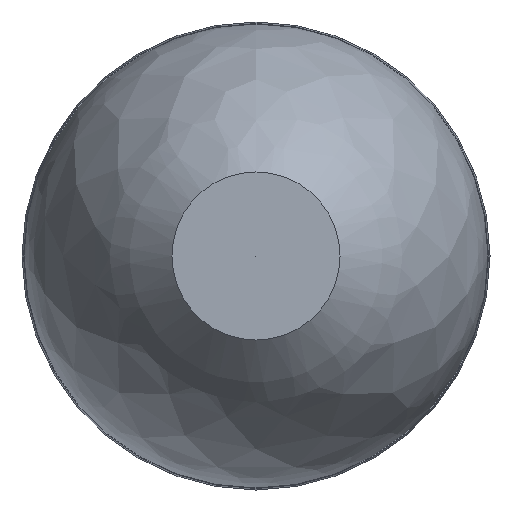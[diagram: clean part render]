
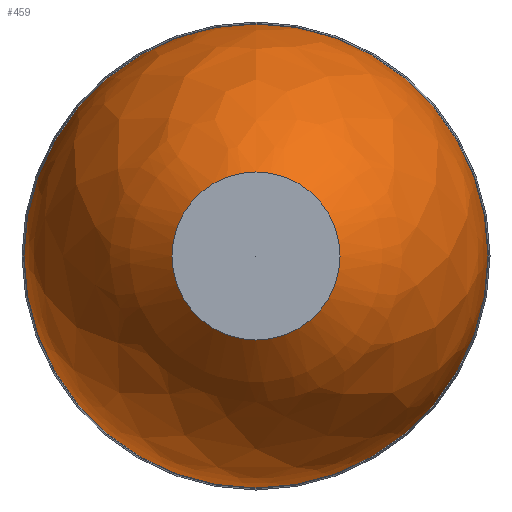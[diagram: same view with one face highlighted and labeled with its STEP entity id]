
A CAD part, front view. The second image highlights one B-rep face of the part: STEP entity #459.
In plain terms, the highlighted free-form (B-spline) face has degree [2, 2] with [3, 9] control points.
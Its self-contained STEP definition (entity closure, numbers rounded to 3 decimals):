
#20=(
BOUNDED_SURFACE()
B_SPLINE_SURFACE(2,2,((#897,#898,#899,#900,#901,#902,#903,#904,#905),(#906,
#907,#908,#909,#910,#911,#912,#913,#914),(#915,#916,#917,#918,#919,#920,
#921,#922,#923)),.UNSPECIFIED.,.F.,.T.,.F.)
B_SPLINE_SURFACE_WITH_KNOTS((3,3),(3,2,2,2,3),(-0.855,0.001),
(-3.142,-1.571,0.,1.571,3.142),
 .UNSPECIFIED.)
GEOMETRIC_REPRESENTATION_ITEM()
RATIONAL_B_SPLINE_SURFACE(((1.,0.707,1.,0.707,1.,
0.707,1.,0.707,1.),(0.91,0.643,
0.91,0.643,0.91,0.643,
0.91,0.643,0.91),(1.,0.707,
1.,0.707,1.,0.707,1.,0.707,1.)))
REPRESENTATION_ITEM('')
SURFACE()
);
#93=FACE_OUTER_BOUND('',#135,.T.);
#135=EDGE_LOOP('',(#413,#414,#415,#416,#417,#418));
#202=CIRCLE('',#558,19.062);
#203=CIRCLE('',#559,19.062);
#204=CIRCLE('',#561,6.913);
#205=CIRCLE('',#562,6.913);
#206=CIRCLE('',#563,35.374);
#240=VERTEX_POINT('',#885);
#241=VERTEX_POINT('',#887);
#242=VERTEX_POINT('',#891);
#243=VERTEX_POINT('',#892);
#297=EDGE_CURVE('',#240,#241,#202,.T.);
#298=EDGE_CURVE('',#241,#240,#203,.T.);
#299=EDGE_CURVE('',#242,#243,#204,.T.);
#301=EDGE_CURVE('',#243,#242,#205,.T.);
#302=EDGE_CURVE('',#241,#243,#206,.T.);
#413=ORIENTED_EDGE('',*,*,#297,.F.);
#414=ORIENTED_EDGE('',*,*,#298,.F.);
#415=ORIENTED_EDGE('',*,*,#302,.T.);
#416=ORIENTED_EDGE('',*,*,#301,.T.);
#417=ORIENTED_EDGE('',*,*,#299,.T.);
#418=ORIENTED_EDGE('',*,*,#302,.F.);
#459=ADVANCED_FACE('',(#93),#20,.F.);
#558=AXIS2_PLACEMENT_3D('',#888,#724,#725);
#559=AXIS2_PLACEMENT_3D('',#889,#726,#727);
#561=AXIS2_PLACEMENT_3D('',#893,#730,#731);
#562=AXIS2_PLACEMENT_3D('',#896,#733,#734);
#563=AXIS2_PLACEMENT_3D('',#924,#735,#736);
#724=DIRECTION('center_axis',(0.,1.,0.));
#725=DIRECTION('ref_axis',(-1.,0.,0.));
#726=DIRECTION('center_axis',(0.,1.,0.));
#727=DIRECTION('ref_axis',(-1.,0.,0.));
#730=DIRECTION('center_axis',(0.,1.,0.));
#731=DIRECTION('ref_axis',(-1.,0.,0.));
#733=DIRECTION('center_axis',(0.,1.,0.));
#734=DIRECTION('ref_axis',(-1.,0.,0.));
#735=DIRECTION('center_axis',(1.,0.,0.));
#736=DIRECTION('ref_axis',(0.,0.,1.));
#885=CARTESIAN_POINT('',(177.413,2.399,0.));
#887=CARTESIAN_POINT('',(158.352,2.399,19.062));
#888=CARTESIAN_POINT('Origin',(158.352,2.399,0.));
#889=CARTESIAN_POINT('Origin',(158.352,2.399,0.));
#891=CARTESIAN_POINT('',(165.265,-24.332,0.));
#892=CARTESIAN_POINT('',(158.352,-24.332,6.913));
#893=CARTESIAN_POINT('Origin',(158.352,-24.332,0.));
#896=CARTESIAN_POINT('Origin',(158.352,-24.332,0.));
#897=CARTESIAN_POINT('Ctrl Pts',(158.352,-24.332,6.913));
#898=CARTESIAN_POINT('Ctrl Pts',(165.265,-24.332,6.913));
#899=CARTESIAN_POINT('Ctrl Pts',(165.265,-24.332,0.));
#900=CARTESIAN_POINT('Ctrl Pts',(165.265,-24.332,-6.913));
#901=CARTESIAN_POINT('Ctrl Pts',(158.352,-24.332,-6.913));
#902=CARTESIAN_POINT('Ctrl Pts',(151.439,-24.332,-6.913));
#903=CARTESIAN_POINT('Ctrl Pts',(151.439,-24.332,0.));
#904=CARTESIAN_POINT('Ctrl Pts',(151.439,-24.332,6.913));
#905=CARTESIAN_POINT('Ctrl Pts',(158.352,-24.332,6.913));
#906=CARTESIAN_POINT('Ctrl Pts',(158.352,-13.738,19.084));
#907=CARTESIAN_POINT('Ctrl Pts',(177.436,-13.738,19.084));
#908=CARTESIAN_POINT('Ctrl Pts',(177.436,-13.738,0.));
#909=CARTESIAN_POINT('Ctrl Pts',(177.436,-13.738,-19.084));
#910=CARTESIAN_POINT('Ctrl Pts',(158.352,-13.738,-19.084));
#911=CARTESIAN_POINT('Ctrl Pts',(139.268,-13.738,-19.084));
#912=CARTESIAN_POINT('Ctrl Pts',(139.268,-13.738,0.));
#913=CARTESIAN_POINT('Ctrl Pts',(139.268,-13.738,19.084));
#914=CARTESIAN_POINT('Ctrl Pts',(158.352,-13.738,19.084));
#915=CARTESIAN_POINT('Ctrl Pts',(158.352,2.399,19.062));
#916=CARTESIAN_POINT('Ctrl Pts',(177.413,2.399,19.062));
#917=CARTESIAN_POINT('Ctrl Pts',(177.413,2.399,0.));
#918=CARTESIAN_POINT('Ctrl Pts',(177.413,2.399,-19.062));
#919=CARTESIAN_POINT('Ctrl Pts',(158.352,2.399,-19.062));
#920=CARTESIAN_POINT('Ctrl Pts',(139.29,2.399,-19.062));
#921=CARTESIAN_POINT('Ctrl Pts',(139.29,2.399,0.));
#922=CARTESIAN_POINT('Ctrl Pts',(139.29,2.399,19.062));
#923=CARTESIAN_POINT('Ctrl Pts',(158.352,2.399,19.062));
#924=CARTESIAN_POINT('Origin',(158.352,2.349,-16.312));
